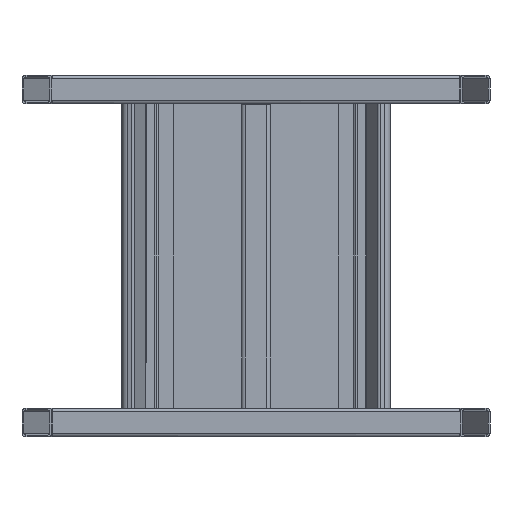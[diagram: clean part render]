
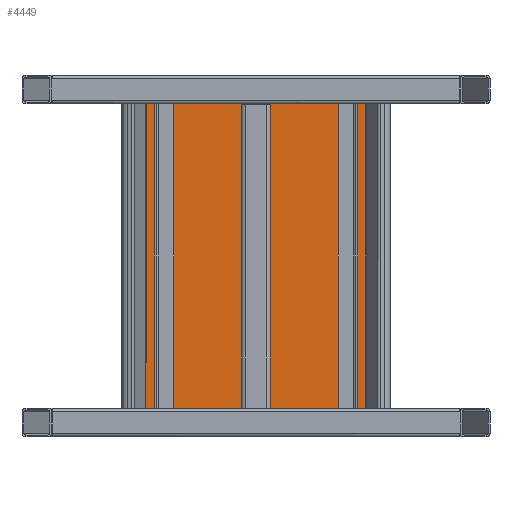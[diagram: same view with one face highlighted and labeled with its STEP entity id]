
A CAD part, front view. The second image highlights one B-rep face of the part: STEP entity #4449.
In plain terms, the highlighted planar face has unit normal (0, -1, 0).
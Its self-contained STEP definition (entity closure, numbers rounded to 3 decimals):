
#197=FACE_BOUND('',#692,.T.);
#198=FACE_BOUND('',#693,.T.);
#199=FACE_BOUND('',#694,.T.);
#200=FACE_BOUND('',#695,.T.);
#201=FACE_BOUND('',#696,.T.);
#202=FACE_BOUND('',#697,.T.);
#203=FACE_BOUND('',#698,.T.);
#204=FACE_BOUND('',#699,.T.);
#261=PLANE('',#4778);
#419=FACE_OUTER_BOUND('',#691,.T.);
#691=EDGE_LOOP('',(#3073,#3074,#3075,#3076,#3077,#3078,#3079,#3080));
#692=EDGE_LOOP('',(#3081));
#693=EDGE_LOOP('',(#3082));
#694=EDGE_LOOP('',(#3083));
#695=EDGE_LOOP('',(#3084));
#696=EDGE_LOOP('',(#3085));
#697=EDGE_LOOP('',(#3086));
#698=EDGE_LOOP('',(#3087));
#699=EDGE_LOOP('',(#3088));
#994=LINE('',#6721,#1414);
#996=LINE('',#6741,#1416);
#998=LINE('',#6761,#1418);
#1000=LINE('',#6778,#1420);
#1414=VECTOR('',#5307,10.);
#1416=VECTOR('',#5319,10.);
#1418=VECTOR('',#5331,10.);
#1420=VECTOR('',#5341,10.);
#1825=CIRCLE('',#4721,5.75);
#1827=CIRCLE('',#4725,5.75);
#1829=CIRCLE('',#4729,5.75);
#1831=CIRCLE('',#4733,5.75);
#1833=CIRCLE('',#4737,5.75);
#1835=CIRCLE('',#4741,5.75);
#1837=CIRCLE('',#4745,5.75);
#1839=CIRCLE('',#4749,5.75);
#1842=CIRCLE('',#4753,3.);
#1848=CIRCLE('',#4760,3.);
#1852=CIRCLE('',#4765,3.);
#1856=CIRCLE('',#4770,3.);
#1909=VERTEX_POINT('',#6644);
#1911=VERTEX_POINT('',#6651);
#1913=VERTEX_POINT('',#6658);
#1915=VERTEX_POINT('',#6665);
#1917=VERTEX_POINT('',#6672);
#1919=VERTEX_POINT('',#6679);
#1921=VERTEX_POINT('',#6686);
#1923=VERTEX_POINT('',#6693);
#1926=VERTEX_POINT('',#6709);
#1927=VERTEX_POINT('',#6711);
#1929=VERTEX_POINT('',#6717);
#1931=VERTEX_POINT('',#6731);
#1933=VERTEX_POINT('',#6737);
#1935=VERTEX_POINT('',#6751);
#1937=VERTEX_POINT('',#6757);
#1939=VERTEX_POINT('',#6771);
#2329=EDGE_CURVE('',#1909,#1909,#1825,.T.);
#2332=EDGE_CURVE('',#1911,#1911,#1827,.T.);
#2335=EDGE_CURVE('',#1913,#1913,#1829,.T.);
#2338=EDGE_CURVE('',#1915,#1915,#1831,.T.);
#2341=EDGE_CURVE('',#1917,#1917,#1833,.T.);
#2344=EDGE_CURVE('',#1919,#1919,#1835,.T.);
#2347=EDGE_CURVE('',#1921,#1921,#1837,.T.);
#2350=EDGE_CURVE('',#1923,#1923,#1839,.T.);
#2354=EDGE_CURVE('',#1926,#1927,#1842,.T.);
#2359=EDGE_CURVE('',#1927,#1929,#994,.T.);
#2362=EDGE_CURVE('',#1929,#1931,#1848,.T.);
#2365=EDGE_CURVE('',#1931,#1933,#996,.T.);
#2368=EDGE_CURVE('',#1933,#1935,#1852,.T.);
#2371=EDGE_CURVE('',#1935,#1937,#998,.T.);
#2374=EDGE_CURVE('',#1937,#1939,#1856,.T.);
#2376=EDGE_CURVE('',#1939,#1926,#1000,.T.);
#3073=ORIENTED_EDGE('',*,*,#2354,.F.);
#3074=ORIENTED_EDGE('',*,*,#2376,.F.);
#3075=ORIENTED_EDGE('',*,*,#2374,.F.);
#3076=ORIENTED_EDGE('',*,*,#2371,.F.);
#3077=ORIENTED_EDGE('',*,*,#2368,.F.);
#3078=ORIENTED_EDGE('',*,*,#2365,.F.);
#3079=ORIENTED_EDGE('',*,*,#2362,.F.);
#3080=ORIENTED_EDGE('',*,*,#2359,.F.);
#3081=ORIENTED_EDGE('',*,*,#2329,.T.);
#3082=ORIENTED_EDGE('',*,*,#2332,.T.);
#3083=ORIENTED_EDGE('',*,*,#2335,.T.);
#3084=ORIENTED_EDGE('',*,*,#2338,.T.);
#3085=ORIENTED_EDGE('',*,*,#2341,.T.);
#3086=ORIENTED_EDGE('',*,*,#2344,.T.);
#3087=ORIENTED_EDGE('',*,*,#2347,.T.);
#3088=ORIENTED_EDGE('',*,*,#2350,.T.);
#4449=ADVANCED_FACE('',(#419,#197,#198,#199,#200,#201,#202,#203,#204),#261,
 .F.);
#4721=AXIS2_PLACEMENT_3D('',#6645,#5224,#5225);
#4725=AXIS2_PLACEMENT_3D('',#6652,#5233,#5234);
#4729=AXIS2_PLACEMENT_3D('',#6659,#5242,#5243);
#4733=AXIS2_PLACEMENT_3D('',#6666,#5251,#5252);
#4737=AXIS2_PLACEMENT_3D('',#6673,#5260,#5261);
#4741=AXIS2_PLACEMENT_3D('',#6680,#5269,#5270);
#4745=AXIS2_PLACEMENT_3D('',#6687,#5278,#5279);
#4749=AXIS2_PLACEMENT_3D('',#6694,#5287,#5288);
#4753=AXIS2_PLACEMENT_3D('',#6712,#5296,#5297);
#4760=AXIS2_PLACEMENT_3D('',#6735,#5312,#5313);
#4765=AXIS2_PLACEMENT_3D('',#6755,#5324,#5325);
#4770=AXIS2_PLACEMENT_3D('',#6775,#5336,#5337);
#4778=AXIS2_PLACEMENT_3D('',#6797,#5361,#5362);
#5224=DIRECTION('center_axis',(0.,1.,0.));
#5225=DIRECTION('ref_axis',(1.,0.,0.));
#5233=DIRECTION('center_axis',(0.,1.,0.));
#5234=DIRECTION('ref_axis',(1.,0.,0.));
#5242=DIRECTION('center_axis',(0.,1.,0.));
#5243=DIRECTION('ref_axis',(1.,0.,0.));
#5251=DIRECTION('center_axis',(0.,1.,0.));
#5252=DIRECTION('ref_axis',(1.,0.,0.));
#5260=DIRECTION('center_axis',(0.,1.,0.));
#5261=DIRECTION('ref_axis',(1.,0.,0.));
#5269=DIRECTION('center_axis',(0.,1.,0.));
#5270=DIRECTION('ref_axis',(1.,0.,0.));
#5278=DIRECTION('center_axis',(0.,1.,0.));
#5279=DIRECTION('ref_axis',(1.,0.,0.));
#5287=DIRECTION('center_axis',(0.,1.,0.));
#5288=DIRECTION('ref_axis',(1.,0.,0.));
#5296=DIRECTION('center_axis',(0.,1.,0.));
#5297=DIRECTION('ref_axis',(0.707,0.,0.707));
#5307=DIRECTION('',(0.,0.,-1.));
#5312=DIRECTION('center_axis',(0.,1.,0.));
#5313=DIRECTION('ref_axis',(0.707,0.,-0.707));
#5319=DIRECTION('',(-1.,0.,0.));
#5324=DIRECTION('center_axis',(0.,1.,0.));
#5325=DIRECTION('ref_axis',(-0.707,0.,-0.707));
#5331=DIRECTION('',(0.,0.,1.));
#5336=DIRECTION('center_axis',(0.,1.,0.));
#5337=DIRECTION('ref_axis',(-0.707,0.,0.707));
#5341=DIRECTION('',(1.,0.,0.));
#5361=DIRECTION('center_axis',(0.,1.,0.));
#5362=DIRECTION('ref_axis',(0.,0.,1.));
#6644=CARTESIAN_POINT('',(-125.953,91.161,-817.497));
#6645=CARTESIAN_POINT('Origin',(-120.203,91.161,-817.497));
#6651=CARTESIAN_POINT('',(254.047,91.161,-487.497));
#6652=CARTESIAN_POINT('Origin',(259.797,91.161,-487.497));
#6658=CARTESIAN_POINT('',(-125.953,91.161,-487.497));
#6659=CARTESIAN_POINT('Origin',(-120.203,91.161,-487.497));
#6665=CARTESIAN_POINT('',(254.047,91.161,-817.497));
#6666=CARTESIAN_POINT('Origin',(259.797,91.161,-817.497));
#6672=CARTESIAN_POINT('',(-40.953,91.161,-997.497));
#6673=CARTESIAN_POINT('Origin',(-35.203,91.161,-997.497));
#6679=CARTESIAN_POINT('',(169.047,91.161,-307.497));
#6680=CARTESIAN_POINT('Origin',(174.797,91.161,-307.497));
#6686=CARTESIAN_POINT('',(-40.953,91.161,-307.497));
#6687=CARTESIAN_POINT('Origin',(-35.203,91.161,-307.497));
#6693=CARTESIAN_POINT('',(169.047,91.161,-997.497));
#6694=CARTESIAN_POINT('Origin',(174.797,91.161,-997.497));
#6709=CARTESIAN_POINT('',(316.797,91.161,-282.497));
#6711=CARTESIAN_POINT('',(319.797,91.161,-285.497));
#6712=CARTESIAN_POINT('Origin',(316.797,91.161,-285.497));
#6717=CARTESIAN_POINT('',(319.797,91.161,-1019.497));
#6721=CARTESIAN_POINT('',(319.797,91.161,-468.997));
#6731=CARTESIAN_POINT('',(316.797,91.161,-1022.497));
#6735=CARTESIAN_POINT('Origin',(316.797,91.161,-1019.497));
#6737=CARTESIAN_POINT('',(-177.203,91.161,-1022.497));
#6741=CARTESIAN_POINT('',(193.297,91.161,-1022.497));
#6751=CARTESIAN_POINT('',(-180.203,91.161,-1019.497));
#6755=CARTESIAN_POINT('Origin',(-177.203,91.161,-1019.497));
#6757=CARTESIAN_POINT('',(-180.203,91.161,-285.497));
#6761=CARTESIAN_POINT('',(-180.203,91.161,-835.997));
#6771=CARTESIAN_POINT('',(-177.203,91.161,-282.497));
#6775=CARTESIAN_POINT('Origin',(-177.203,91.161,-285.497));
#6778=CARTESIAN_POINT('',(-53.703,91.161,-282.497));
#6797=CARTESIAN_POINT('Origin',(69.797,91.161,-652.497));
